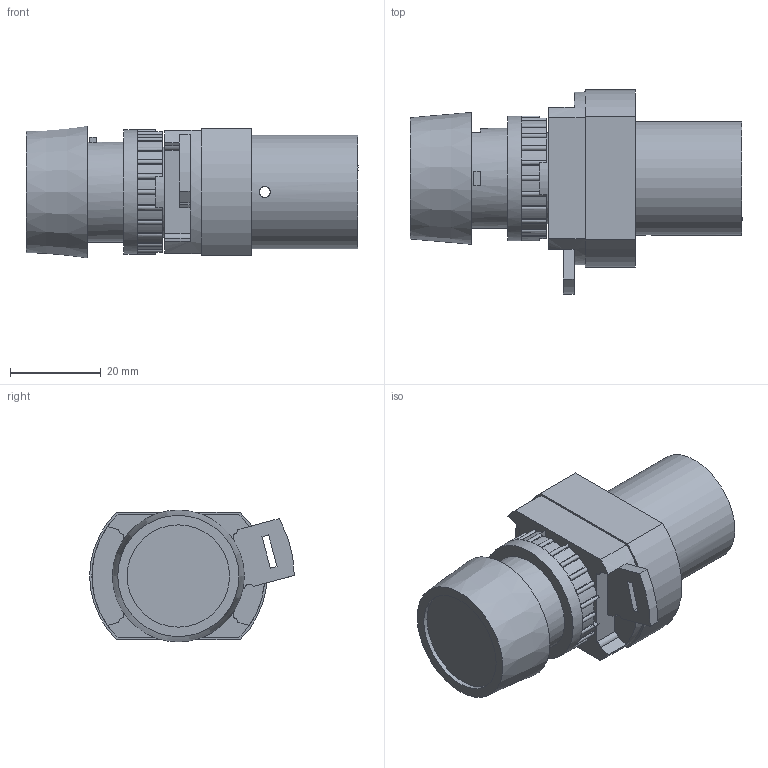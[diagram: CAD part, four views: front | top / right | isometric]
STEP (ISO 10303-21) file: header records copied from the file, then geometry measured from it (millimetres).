
FILE_DESCRIPTION (( 'STEP AP214' ), '1' );
FILE_NAME ('18-T-23-011---T-30-310_Airtec.step', '2018-11-15T13:09:41', ( '' ), ( '' ), 'SwSTEP 2.0', 'SolidWorks 2010', '' );
FILE_SCHEMA (( 'AUTOMOTIVE_DESIGN' ));
Length unit declared in the file: millimetre
Products named in the file (3): 18-T-23-011-Airtec; T-30-310-Airtec; 18-T-23-011---T-30-310_Airtec
Assembly tree (2 placements, depth 2):
  18-T-23-011---T-30-310_Airtec
    18-T-23-011-Airtec
    T-30-310-Airtec
Bounding box: 73 x 45 x 29 mm (x, y, z)
Volume: 42676.8 mm3; surface area: 12639.4 mm2
Topology: 2 solids, 2 shells, 257 faces, 698 edges, 456 vertices
Faces by surface type: plane 127, cylinder 125, cone 4, bspline 1
Full cylindrical faces by diameter (mm): 2.4 x1, 4.134 x2, 5 x1, 9 x1, 16 x1, 20 x1, 22 x1, 22.5 x1, 25 x1, 27.4 x1
Entity records: 8260 total; most frequent: DIRECTION 1515, CARTESIAN_POINT 1477, ORIENTED_EDGE 1348, EDGE_CURVE 674, AXIS2_PLACEMENT_3D 582, VERTEX_POINT 448, VECTOR 351, LINE 351
